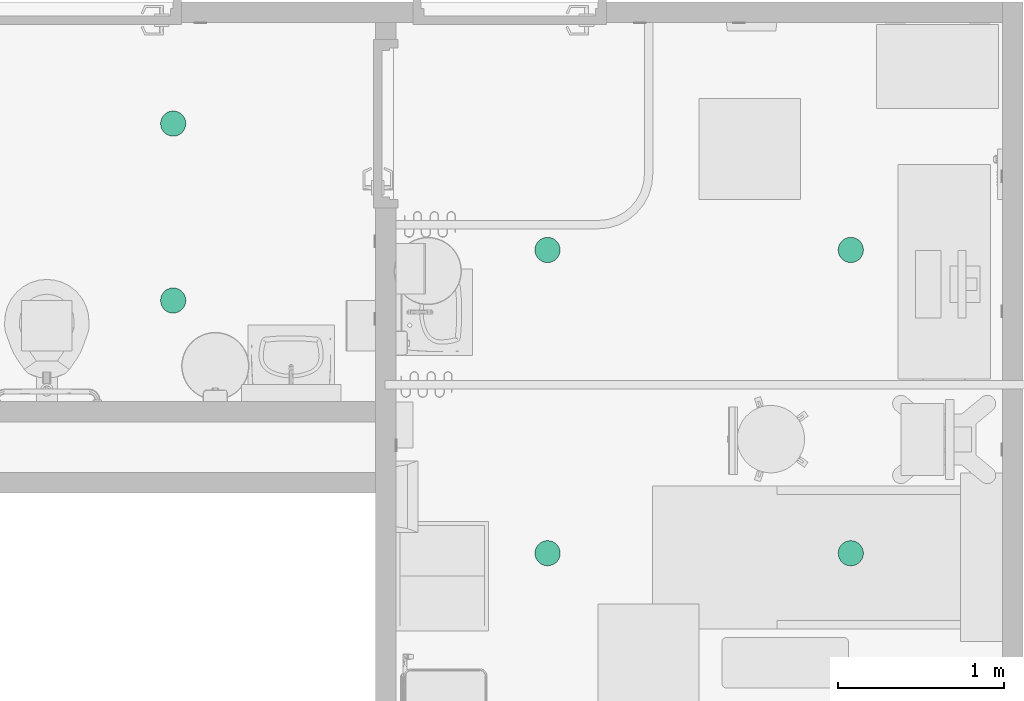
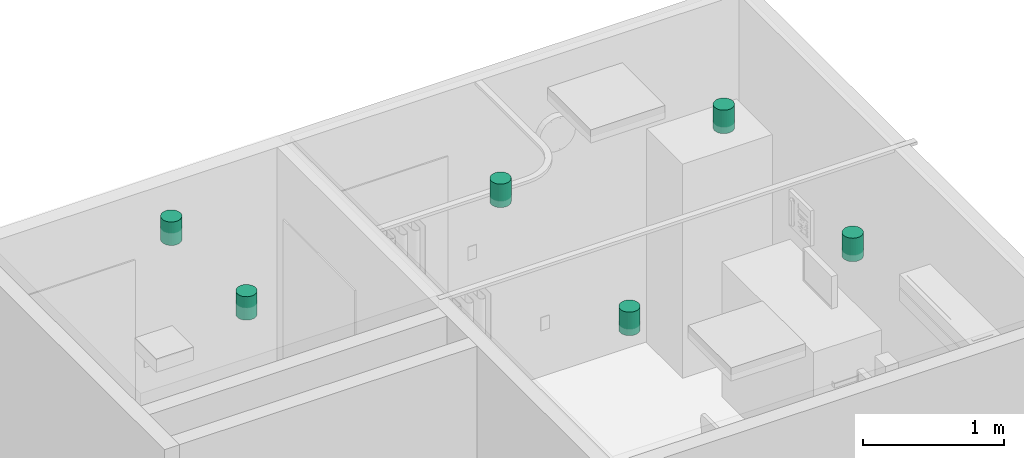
# One storey, part 5 of 14: 6 flow terminals.
"""IFC2X3 building model written with IfcOpenShell, lengths in feet."""

from ifc_helpers import new_model, entity, si_unit, converted_unit, derived_unit, direction, frame, frame_2d, origin, place, context, subcontext, project, spatial, circle, extrude, source, transform, mapped, type_object, type_shapes, element, save


model = new_model("IFC2X3")

# Units and contexts
model_context = context("Model", 3, precision=0.0001, world=origin(), true_north=direction((6.12303176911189e-17, 1.0)))
body_context = subcontext(model_context, "Body", "Model", "MODEL_VIEW")
ifc_project = project(units=[converted_unit("LENGTHUNIT", "FOOT", entity("IfcRatioMeasure", 0.3048), si_unit("LENGTHUNIT", "METRE"), dimensions=[1, 0, 0, 0, 0, 0, 0]), converted_unit("AREAUNIT", "SQUARE FOOT", entity("IfcRatioMeasure", 0.09290304), si_unit("AREAUNIT", "SQUARE_METRE"), dimensions=[2, 0, 0, 0, 0, 0, 0]), converted_unit("VOLUMEUNIT", "CUBIC FOOT", entity("IfcRatioMeasure", 0.028316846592), si_unit("VOLUMEUNIT", "CUBIC_METRE"), dimensions=[3, 0, 0, 0, 0, 0, 0]), converted_unit("PLANEANGLEUNIT", "DEGREE", entity("IfcRatioMeasure", 0.0174532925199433), si_unit("PLANEANGLEUNIT", "RADIAN"), dimensions=[0, 0, 0, 0, 0, 0, 0]), si_unit("MASSUNIT", "GRAM", prefix="KILO"), derived_unit("MASSDENSITYUNIT", [(si_unit("MASSUNIT", "GRAM", prefix="KILO"), 1), (si_unit("LENGTHUNIT", "METRE"), -3)]), si_unit("TIMEUNIT", "SECOND"), si_unit("FREQUENCYUNIT", "HERTZ"), si_unit("THERMODYNAMICTEMPERATUREUNIT", "DEGREE_CELSIUS"), derived_unit("THERMALTRANSMITTANCEUNIT", [(si_unit("MASSUNIT", "GRAM", prefix="KILO"), 1), (si_unit("THERMODYNAMICTEMPERATUREUNIT", "KELVIN"), -1), (si_unit("TIMEUNIT", "SECOND"), -3)]), derived_unit("VOLUMETRICFLOWRATEUNIT", [(si_unit("LENGTHUNIT", "METRE"), 3), (si_unit("TIMEUNIT", "SECOND"), -1)]), si_unit("ELECTRICCURRENTUNIT", "AMPERE"), si_unit("ELECTRICVOLTAGEUNIT", "VOLT"), si_unit("POWERUNIT", "WATT"), si_unit("FORCEUNIT", "NEWTON"), si_unit("ILLUMINANCEUNIT", "LUX"), si_unit("LUMINOUSFLUXUNIT", "LUMEN"), si_unit("LUMINOUSINTENSITYUNIT", "CANDELA"), derived_unit("USERDEFINED", [(si_unit("MASSUNIT", "GRAM", prefix="KILO"), -1), (si_unit("LENGTHUNIT", "METRE"), -2), (si_unit("TIMEUNIT", "SECOND"), 3), (si_unit("LUMINOUSFLUXUNIT", "LUMEN"), 1)]), derived_unit("LINEARVELOCITYUNIT", [(si_unit("LENGTHUNIT", "METRE"), 1), (si_unit("TIMEUNIT", "SECOND"), -1)]), si_unit("PRESSUREUNIT", "PASCAL"), derived_unit("USERDEFINED", [(si_unit("LENGTHUNIT", "METRE"), -2), (si_unit("MASSUNIT", "GRAM", prefix="KILO"), 1), (si_unit("TIMEUNIT", "SECOND"), -2)])], contexts=[model_context])

# Site, building, storey, space
site_placement = place(None, origin())
site = spatial("IfcSite", under=ifc_project, at=site_placement, Name="Default", CompositionType="ELEMENT")
building_placement = place(site_placement, origin())
building = spatial("IfcBuilding", under=site, at=building_placement, Name="OUTPATIENT / PACT CLINIC (Ch. 265)", CompositionType="ELEMENT")
storey_placement = place(building_placement, origin())
storey = spatial("IfcBuildingStorey", under=building, at=storey_placement, Name="DATUM", CompositionType="ELEMENT", Elevation=0.0)
space_1_placement = place(storey_placement, origin())
space_1 = spatial("IfcSpace", under=storey, at=space_1_placement, Name="XDUS1", CompositionType="ELEMENT", InteriorOrExteriorSpace="INTERNAL")

# Flow terminals
light_fixture_type_1 = type_object("IfcLightFixtureType", Name="6\"", PredefinedType="NOTDEFINED")
shared_shape_1 = source(origin(), body_context, "Body", "SweptSolid", [
    extrude(circle(Radius=0.25, at=frame_2d((0.0, -3.88578058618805e-16), x_axis=(1.0, 0.0))), frame((0.132132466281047, -0.159583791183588, 7.99242651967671)), (0.0, 0.0, 1.0), 0.666666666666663),
])
type_shapes(light_fixture_type_1, [shared_shape_1])
for number, where in (
    (1, (341.50556054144, -847.434140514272, 1.00757348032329)),
    (2, (335.50556054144, -853.434140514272, 1.00757348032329)),
    (3, (341.50556054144, -853.434140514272, 1.00757348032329)),
    (4, (335.50556054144, -847.434140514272, 1.00757348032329)),
):
    element("IfcFlowTerminal", number, at=place(space_1_placement, frame(where)), inside=space_1, type_object=light_fixture_type_1, Name="Downlight - Recessed Can:6\"", ObjectType="6\"", context=body_context, shape_type="MappedRepresentation", body=[
        mapped(shared_shape_1, transform((0.0, 0.0, 0.0), scale=1.0)),
    ])

# Space
space_2_placement = place(storey_placement, origin())
space_2 = spatial("IfcSpace", under=storey, at=space_2_placement, Name="TNPG1", CompositionType="ELEMENT", InteriorOrExteriorSpace="INTERNAL")

# Flow terminals
light_fixture_type_2 = type_object("IfcLightFixtureType", Name="6\"", PredefinedType="NOTDEFINED")
shared_shape_2 = source(origin(), body_context, "Body", "SweptSolid", [
    extrude(circle(Radius=0.25, at=frame_2d((0.0, -3.88578058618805e-16), x_axis=(1.0, 0.0))), frame((0.132132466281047, -0.159583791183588, 7.99242651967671)), (0.0, 0.0, 1.0), 0.666666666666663),
])
type_shapes(light_fixture_type_2, [shared_shape_2])
for number, where in (
    (5, (328.09931054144, -844.934140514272, 1.00757348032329)),
    (6, (328.09931054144, -848.434140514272, 1.00757348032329)),
):
    element("IfcFlowTerminal", number, at=place(space_2_placement, frame(where)), inside=space_2, type_object=light_fixture_type_2, Name="Downlight - Recessed Can:6\"", ObjectType="6\"", context=body_context, shape_type="MappedRepresentation", body=[
        mapped(shared_shape_2, transform((0.0, 0.0, 0.0), scale=1.0)),
    ])

save(model, "model.ifc")
